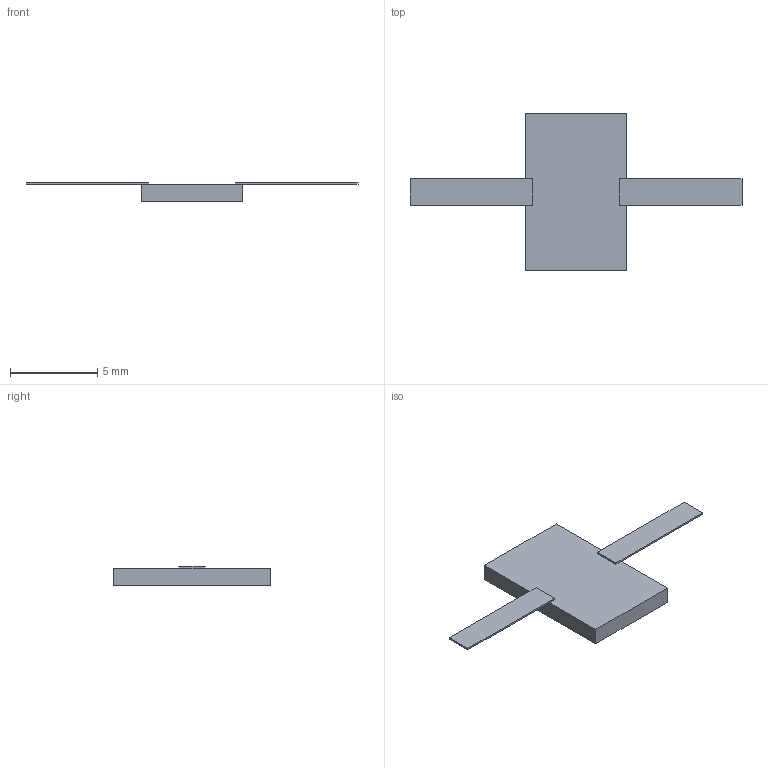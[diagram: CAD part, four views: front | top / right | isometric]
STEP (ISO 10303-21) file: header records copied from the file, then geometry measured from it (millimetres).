
FILE_DESCRIPTION(('STEP AP203'), '1');
FILE_NAME('P1-170-100-29', '', ('UNSPECIFIED'), ('UNSPECIFIED'), 'ASCON STEP Converter 1.6', 'ASCON Math Kernel', '');
FILE_SCHEMA(('CONFIG_CONTROL_DESIGN'));
Length unit declared in the file: millimetre
Bounding box: 19 x 9 x 1.1 mm (x, y, z)
Volume: 54.3 mm3; surface area: 177 mm2
Topology: 1 solids, 1 shells, 18 faces, 44 edges, 28 vertices
Faces by surface type: plane 18
Entity records: 704 total; most frequent: CARTESIAN_POINT 91, ORIENTED_EDGE 88, DIRECTION 82, EDGE_CURVE 44, LINE 44, VECTOR 44, VERTEX_POINT 28, AXIS2_PLACEMENT_3D 19
